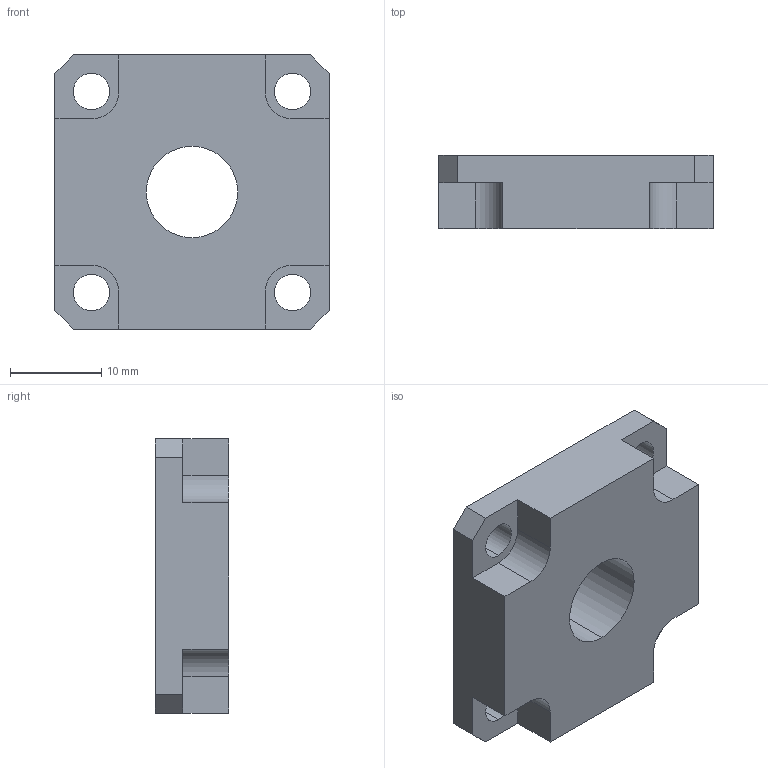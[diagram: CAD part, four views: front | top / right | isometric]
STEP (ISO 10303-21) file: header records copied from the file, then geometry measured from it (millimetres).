
FILE_DESCRIPTION (( 'STEP AP214' ), '1' );
FILE_NAME ('ゴムシート.STEP', '2025-04-18T02:00:54', ( '' ), ( '' ), 'SwSTEP 2.0', 'SolidWorks 2023', '' );
FILE_SCHEMA (( 'AUTOMOTIVE_DESIGN' ));
Length unit declared in the file: millimetre
Products named in the file (1): ゴムシート
Bounding box: 30 x 8 x 30 mm (x, y, z)
Volume: 5455.5 mm3; surface area: 2848.7 mm2
Topology: 1 solids, 1 shells, 36 faces, 102 edges, 68 vertices
Faces by surface type: plane 22, cylinder 14
Entity records: 1217 total; most frequent: CARTESIAN_POINT 207, DIRECTION 204, ORIENTED_EDGE 204, EDGE_CURVE 102, LINE 74, VECTOR 74, VERTEX_POINT 68, AXIS2_PLACEMENT_3D 65
